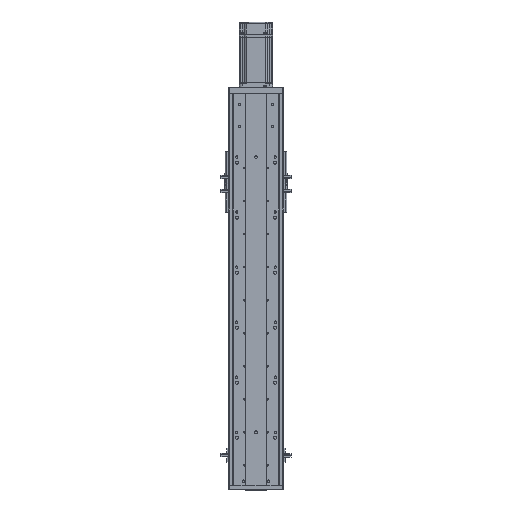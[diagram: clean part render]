
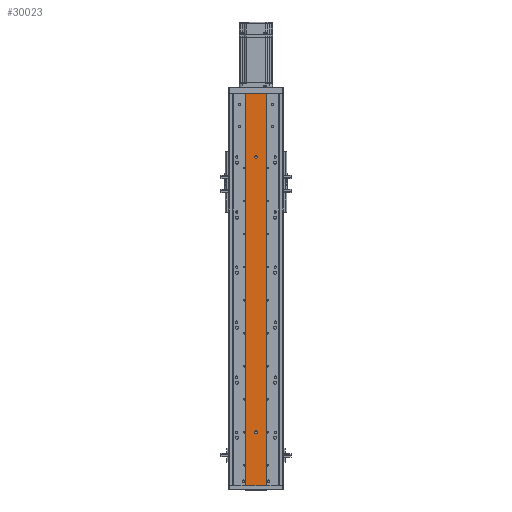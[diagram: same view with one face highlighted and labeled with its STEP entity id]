
A CAD part, top view. The second image highlights one B-rep face of the part: STEP entity #30023.
In plain terms, the highlighted planar face has unit normal (0, 0, 1).
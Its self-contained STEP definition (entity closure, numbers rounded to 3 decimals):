
#1593 = AXIS2_PLACEMENT_3D ( 'NONE', #25918, #25931, #25923 ) ;
#7453 = VERTEX_POINT ( 'NONE', #42201 ) ;
#7456 = VERTEX_POINT ( 'NONE', #42219 ) ;
#7498 = VERTEX_POINT ( 'NONE', #42280 ) ;
#7520 = VERTEX_POINT ( 'NONE', #42288 ) ;
#7958 = EDGE_CURVE ( 'NONE', #7453, #7498, #29065, .T. ) ;
#7967 = EDGE_CURVE ( 'NONE', #7520, #7456, #29136, .T. ) ;
#8624 = EDGE_CURVE ( 'NONE', #9887, #9867, #22396, .T. ) ;
#8656 = EDGE_CURVE ( 'NONE', #9867, #10003, #22382, .T. ) ;
#8657 = EDGE_CURVE ( 'NONE', #9887, #10038, #22521, .T. ) ;
#8692 = EDGE_CURVE ( 'NONE', #7498, #7453, #22453, .T. ) ;
#8712 = EDGE_CURVE ( 'NONE', #10038, #10003, #22592, .T. ) ;
#8749 = EDGE_CURVE ( 'NONE', #7456, #7520, #22786, .T. ) ;
#9867 = VERTEX_POINT ( 'NONE', #23269 ) ;
#9887 = VERTEX_POINT ( 'NONE', #23248 ) ;
#10003 = VERTEX_POINT ( 'NONE', #23288 ) ;
#10038 = VERTEX_POINT ( 'NONE', #23360 ) ;
#12555 = FACE_BOUND ( 'NONE', #40880, .T. ) ;
#12557 = FACE_OUTER_BOUND ( 'NONE', #40921, .T. ) ;
#12563 = FACE_BOUND ( 'NONE', #40877, .T. ) ;
#14802 = DIRECTION ( 'NONE',  ( 0., 0., -1. ) ) ;
#14827 = DIRECTION ( 'NONE',  ( -1., 0., 0. ) ) ;
#14853 = CARTESIAN_POINT ( 'NONE',  ( -10626.079, 97., -17040.86 ) ) ;
#14862 = CARTESIAN_POINT ( 'NONE',  ( -10626.079, 597., -17040.86 ) ) ;
#14867 = DIRECTION ( 'NONE',  ( 0., 0., -1. ) ) ;
#14877 = DIRECTION ( 'NONE',  ( -1., 0., 0. ) ) ;
#20925 = DIRECTION ( 'NONE',  ( 0., 0., -1. ) ) ;
#20931 = CARTESIAN_POINT ( 'NONE',  ( -10626.079, 597., -17040.86 ) ) ;
#20948 = DIRECTION ( 'NONE',  ( -1., 0., 0. ) ) ;
#20964 = DIRECTION ( 'NONE',  ( 0., -1., 0. ) ) ;
#20978 = CARTESIAN_POINT ( 'NONE',  ( -10607.079, 712., -17040.86 ) ) ;
#21094 = CARTESIAN_POINT ( 'NONE',  ( -10626.079, 97., -17040.86 ) ) ;
#21101 = DIRECTION ( 'NONE',  ( 0., 0., -1. ) ) ;
#21106 = DIRECTION ( 'NONE',  ( -1., 0., 0. ) ) ;
#21746 = DIRECTION ( 'NONE',  ( 0., -1., 0. ) ) ;
#21767 = CARTESIAN_POINT ( 'NONE',  ( -10645.079, 712., -17040.86 ) ) ;
#21812 = DIRECTION ( 'NONE',  ( 1., 0., 0. ) ) ;
#21821 = DIRECTION ( 'NONE',  ( 1., 0., 0. ) ) ;
#21829 = CARTESIAN_POINT ( 'NONE',  ( -10645.079, 712., -17040.86 ) ) ;
#21841 = CARTESIAN_POINT ( 'NONE',  ( -10645.079, 0., -17040.86 ) ) ;
#22306 = VECTOR ( 'NONE', #21746, 1000. ) ;
#22382 = LINE ( 'NONE', #21841, #22443 ) ;
#22396 = LINE ( 'NONE', #21767, #22306 ) ;
#22443 = VECTOR ( 'NONE', #21821, 1000. ) ;
#22453 = CIRCLE ( 'NONE', #34137, 2.5 ) ;
#22479 = VECTOR ( 'NONE', #21812, 1000. ) ;
#22521 = LINE ( 'NONE', #21829, #22479 ) ;
#22592 = LINE ( 'NONE', #20978, #22671 ) ;
#22671 = VECTOR ( 'NONE', #20964, 1000. ) ;
#22786 = CIRCLE ( 'NONE', #34143, 2.5 ) ;
#23248 = CARTESIAN_POINT ( 'NONE',  ( -10645.079, 712., -17040.86 ) ) ;
#23269 = CARTESIAN_POINT ( 'NONE',  ( -10645.079, 0., -17040.86 ) ) ;
#23288 = CARTESIAN_POINT ( 'NONE',  ( -10607.079, 0., -17040.86 ) ) ;
#23360 = CARTESIAN_POINT ( 'NONE',  ( -10607.079, 712., -17040.86 ) ) ;
#25918 = CARTESIAN_POINT ( 'NONE',  ( -10645.079, 712., -17040.86 ) ) ;
#25923 = DIRECTION ( 'NONE',  ( -1., 0., 0. ) ) ;
#25930 = PLANE ( 'NONE',  #1593 ) ;
#25931 = DIRECTION ( 'NONE',  ( 0., 0., -1. ) ) ;
#29065 = CIRCLE ( 'NONE', #33830, 2.5 ) ;
#29136 = CIRCLE ( 'NONE', #33832, 2.5 ) ;
#30023 = ADVANCED_FACE ( 'NONE', ( #12555, #12563, #12557 ), #25930, .F. ) ;
#33830 = AXIS2_PLACEMENT_3D ( 'NONE', #14862, #14867, #14827 ) ;
#33832 = AXIS2_PLACEMENT_3D ( 'NONE', #14853, #14802, #14877 ) ;
#34137 = AXIS2_PLACEMENT_3D ( 'NONE', #20931, #20925, #20948 ) ;
#34143 = AXIS2_PLACEMENT_3D ( 'NONE', #21094, #21101, #21106 ) ;
#40877 = EDGE_LOOP ( 'NONE', ( #44827, #44763 ) ) ;
#40880 = EDGE_LOOP ( 'NONE', ( #44713, #44681 ) ) ;
#40921 = EDGE_LOOP ( 'NONE', ( #44750, #44777, #44807, #44762 ) ) ;
#42201 = CARTESIAN_POINT ( 'NONE',  ( -10623.579, 597., -17040.86 ) ) ;
#42219 = CARTESIAN_POINT ( 'NONE',  ( -10628.579, 97., -17040.86 ) ) ;
#42280 = CARTESIAN_POINT ( 'NONE',  ( -10628.579, 597., -17040.86 ) ) ;
#42288 = CARTESIAN_POINT ( 'NONE',  ( -10623.579, 97., -17040.86 ) ) ;
#44681 = ORIENTED_EDGE ( 'NONE', *, *, #8692, .T. ) ;
#44713 = ORIENTED_EDGE ( 'NONE', *, *, #7958, .T. ) ;
#44750 = ORIENTED_EDGE ( 'NONE', *, *, #8656, .T. ) ;
#44762 = ORIENTED_EDGE ( 'NONE', *, *, #8624, .T. ) ;
#44763 = ORIENTED_EDGE ( 'NONE', *, *, #8749, .T. ) ;
#44777 = ORIENTED_EDGE ( 'NONE', *, *, #8712, .F. ) ;
#44807 = ORIENTED_EDGE ( 'NONE', *, *, #8657, .F. ) ;
#44827 = ORIENTED_EDGE ( 'NONE', *, *, #7967, .T. ) ;
